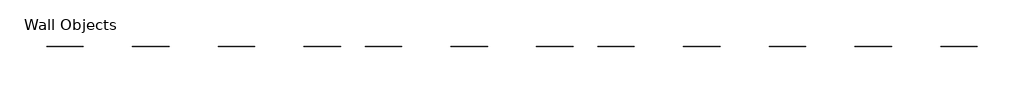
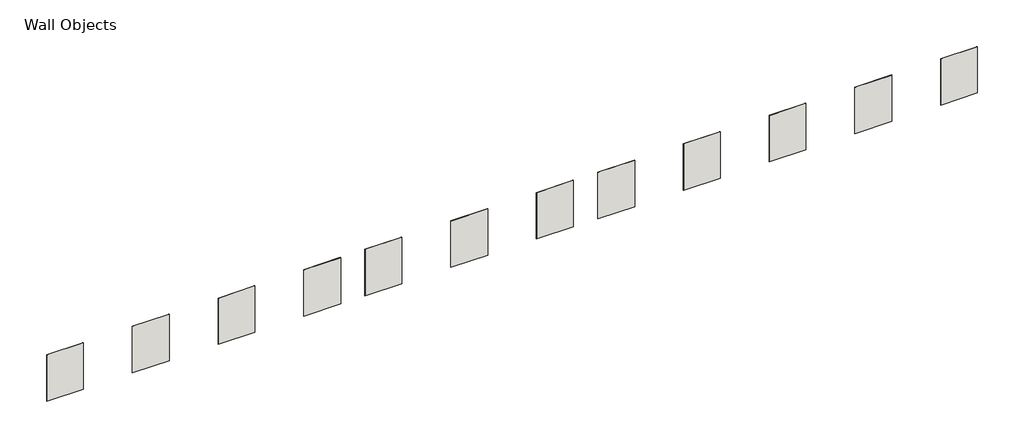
# One storey: 12 walls.
"""IFC4 building model written with IfcOpenShell, lengths in millimetres."""

from ifc_helpers import new_model, si_unit, frame, origin, place, context, project, spatial, polyline, outline, extrude, element, save

model = new_model("IFC4")

# Units and contexts
model_context = context("Model", 3, world=origin())
ifc_project = project(units=[si_unit("LENGTHUNIT", "METRE", prefix="MILLI")], contexts=[model_context])

# Site, building, storey
site = spatial("IfcSite", under=ifc_project)
building = spatial("IfcBuilding", under=site)
storey = spatial("IfcBuildingStorey", under=building, Name="Wall Objects", Elevation=4000.0)

# Walls
placement = place(None, origin())
element("IfcWall", 1, ObjectType="Knauf Danoline Designpanel Globe-G1F 2700x900x12,5_B", at=placement, inside=storey, context=model_context, shape_type="SweptSolid", body=[
    extrude(outline(polyline([(-4783.0103193, 6610.7781757), (-7783.0103193, 6610.7781757), (-7783.0103193, 6623.2781757), (-4783.0103193, 6623.2781757), (-4783.0103193, 6610.7781757)])), frame((0.0, 0.0, 4000.0), z_axis=(0.0, 0.0, 1.0), x_axis=(1.0, 0.0, 0.0)), (0.0, 0.0, 1.0), 4000.0),
])
element("IfcWall", 2, ObjectType="Knauf Danoline Designpanel Globe-G2F 2400x1200x12,5_B", at=placement, inside=storey, context=model_context, shape_type="SweptSolid", body=[
    extrude(outline(polyline([(2216.9899047, 6610.7781757), (-783.0100953, 6610.7781757), (-783.0100953, 6623.2781757), (2216.9899047, 6623.2781757), (2216.9899047, 6610.7781757)])), frame((0.0, 0.0, 4000.0), z_axis=(0.0, 0.0, 1.0), x_axis=(1.0, 0.0, 0.0)), (0.0, 0.0, 1.0), 4000.0),
])
element("IfcWall", 3, ObjectType="Knauf Danoline Designpanel Micro-M1F 2700x900x12,5_B", at=placement, inside=storey, context=model_context, shape_type="SweptSolid", body=[
    extrude(outline(polyline([(9216.9901287, 6610.7781757), (6216.9901287, 6610.7781757), (6216.9901287, 6623.2781757), (9216.9901287, 6623.2781757), (9216.9901287, 6610.7781757)])), frame((0.0, 0.0, 4000.0), z_axis=(0.0, 0.0, 1.0), x_axis=(1.0, 0.0, 0.0)), (0.0, 0.0, 1.0), 4000.0),
])
element("IfcWall", 4, ObjectType="Knauf Danoline Designpanel Micro-M2F 2700x900x12,5_B", at=placement, inside=storey, context=model_context, shape_type="SweptSolid", body=[
    extrude(outline(polyline([(16216.9903527, 6610.7781757), (13216.9903527, 6610.7781757), (13216.9903527, 6623.2781757), (16216.9903527, 6623.2781757), (16216.9903527, 6610.7781757)])), frame((0.0, 0.0, 4000.0), z_axis=(0.0, 0.0, 1.0), x_axis=(1.0, 0.0, 0.0)), (0.0, 0.0, 1.0), 4000.0),
])
element("IfcWall", 5, ObjectType="Knauf Danoline Designpanel Micro-M2F 2400x1200x12,5_B", at=placement, inside=storey, context=model_context, shape_type="SweptSolid", body=[
    extrude(outline(polyline([(21216.9905127, 6610.7781757), (18216.9905127, 6610.7781757), (18216.9905127, 6623.2781757), (21216.9905127, 6623.2781757), (21216.9905127, 6610.7781757)])), frame((0.0, 0.0, 4000.0), z_axis=(0.0, 0.0, 1.0), x_axis=(1.0, 0.0, 0.0)), (0.0, 0.0, 1.0), 4000.0),
])
element("IfcWall", 6, ObjectType="Knauf Danoline Designpanel Quadril-G1Q 2700x900x12,5_B", at=placement, inside=storey, context=model_context, shape_type="SweptSolid", body=[
    extrude(outline(polyline([(28216.9907367, 6610.7781757), (25216.9907367, 6610.7781757), (25216.9907367, 6623.2781757), (28216.9907367, 6623.2781757), (28216.9907367, 6610.7781757)])), frame((0.0, 0.0, 4000.0), z_axis=(0.0, 0.0, 1.0), x_axis=(1.0, 0.0, 0.0)), (0.0, 0.0, 1.0), 4000.0),
])
element("IfcWall", 7, ObjectType="Knauf Danoline Designpanel Quadril-G2F 2700x900x12,5_B", at=placement, inside=storey, context=model_context, shape_type="SweptSolid", body=[
    extrude(outline(polyline([(35216.9909607, 6610.7781757), (32216.9909607, 6610.7781757), (32216.9909607, 6623.2781757), (35216.9909607, 6623.2781757), (35216.9909607, 6610.7781757)])), frame((0.0, 0.0, 4000.0), z_axis=(0.0, 0.0, 1.0), x_axis=(1.0, 0.0, 0.0)), (0.0, 0.0, 1.0), 4000.0),
])
element("IfcWall", 8, ObjectType="Knauf Danoline Designpanel Quadril-G2F 2400x1200x12,5_B", at=placement, inside=storey, context=model_context, shape_type="SweptSolid", body=[
    extrude(outline(polyline([(40216.9911207, 6610.7781757), (37216.9911207, 6610.7781757), (37216.9911207, 6623.2781757), (40216.9911207, 6623.2781757), (40216.9911207, 6610.7781757)])), frame((0.0, 0.0, 4000.0), z_axis=(0.0, 0.0, 1.0), x_axis=(1.0, 0.0, 0.0)), (0.0, 0.0, 1.0), 4000.0),
])
element("IfcWall", 9, ObjectType="Knauf Danoline Designpanel Regular 2400x1200x12,5_B", at=placement, inside=storey, context=model_context, shape_type="SweptSolid", body=[
    extrude(outline(polyline([(47216.9913447, 6610.7781757), (44216.9913447, 6610.7781757), (44216.9913447, 6623.2781757), (47216.9913447, 6623.2781757), (47216.9913447, 6610.7781757)])), frame((0.0, 0.0, 4000.0), z_axis=(0.0, 0.0, 1.0), x_axis=(1.0, 0.0, 0.0)), (0.0, 0.0, 1.0), 4000.0),
])
element("IfcWall", 10, ObjectType="Knauf Danoline Designpanel Tangent-T3L1 2400x1200x12,5_B", at=placement, inside=storey, context=model_context, shape_type="SweptSolid", body=[
    extrude(outline(polyline([(54216.9915687, 6610.7781757), (51216.9915687, 6610.7781757), (51216.9915687, 6623.2781757), (54216.9915687, 6623.2781757), (54216.9915687, 6610.7781757)])), frame((0.0, 0.0, 4000.0), z_axis=(0.0, 0.0, 1.0), x_axis=(1.0, 0.0, 0.0)), (0.0, 0.0, 1.0), 4000.0),
])
element("IfcWall", 11, ObjectType="Knauf Danoline Designpanel Tangent-T3L2 2400x1200x12,5_B", at=placement, inside=storey, context=model_context, shape_type="SweptSolid", body=[
    extrude(outline(polyline([(61216.9917927, 6610.7781757), (58216.9917927, 6610.7781757), (58216.9917927, 6623.2781757), (61216.9917927, 6623.2781757), (61216.9917927, 6610.7781757)])), frame((0.0, 0.0, 4000.0), z_axis=(0.0, 0.0, 1.0), x_axis=(1.0, 0.0, 0.0)), (0.0, 0.0, 1.0), 4000.0),
])
element("IfcWall", 12, ObjectType="Knauf Danoline Designpanel Tangent-T3L3 2400x1200x12,5_B", at=placement, inside=storey, context=model_context, shape_type="SweptSolid", body=[
    extrude(outline(polyline([(68216.9920167, 6610.7781757), (65216.9920167, 6610.7781757), (65216.9920167, 6623.2781757), (68216.9920167, 6623.2781757), (68216.9920167, 6610.7781757)])), frame((0.0, 0.0, 4000.0), z_axis=(0.0, 0.0, 1.0), x_axis=(1.0, 0.0, 0.0)), (0.0, 0.0, 1.0), 4000.0),
])

save(model, "model.ifc")
